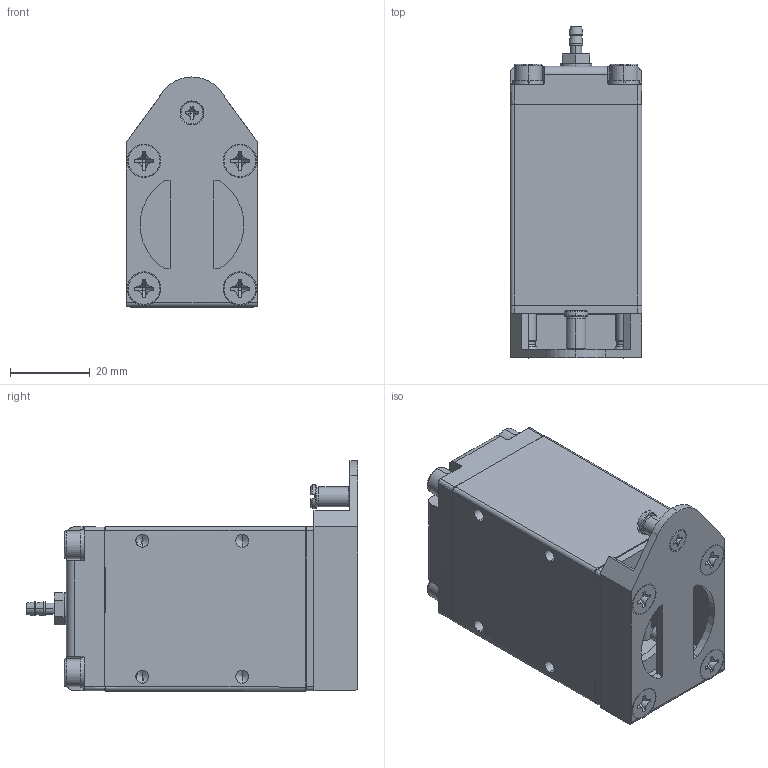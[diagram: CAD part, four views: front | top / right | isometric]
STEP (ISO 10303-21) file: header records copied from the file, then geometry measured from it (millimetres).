
FILE_DESCRIPTION (( 'STEP AP214' ), '1' );
FILE_NAME ('GT-NF15.STEP', '2019-11-27T02:19:45', ( '微软用户' ), ( '微软中国' ), 'SwSTEP 2.0', 'SolidWorks 2016', '' );
FILE_SCHEMA (( 'AUTOMOTIVE_DESIGN' ));
Length unit declared in the file: millimetre
Products named in the file (1): GT-NF15
Bounding box: 33 x 83.1 x 57.6 mm (x, y, z)
Surface area: 22805.4 mm2 (no closed solid volume)
Topology: 0 solids, 59 shells, 622 faces, 1690 edges, 1140 vertices
Faces by surface type: plane 281, cylinder 195, bspline 72, cone 54, torus 20
Entity records: 29135 total; most frequent: CARTESIAN_POINT 10891, ORIENTED_EDGE 3062, DIRECTION 2821, EDGE_CURVE 1658, VERTEX_POINT 1140, AXIS2_PLACEMENT_3D 1057, VECTOR 707, LINE 707
